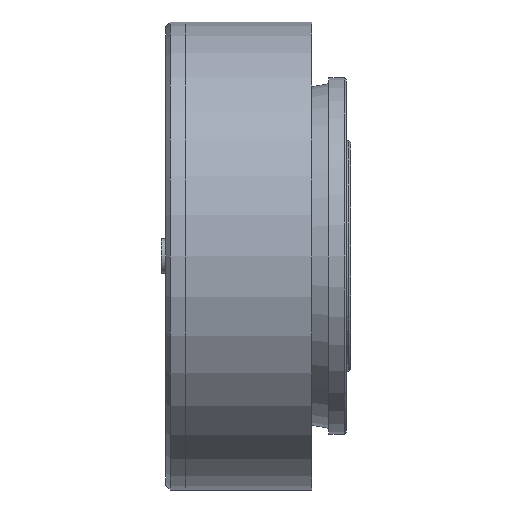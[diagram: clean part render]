
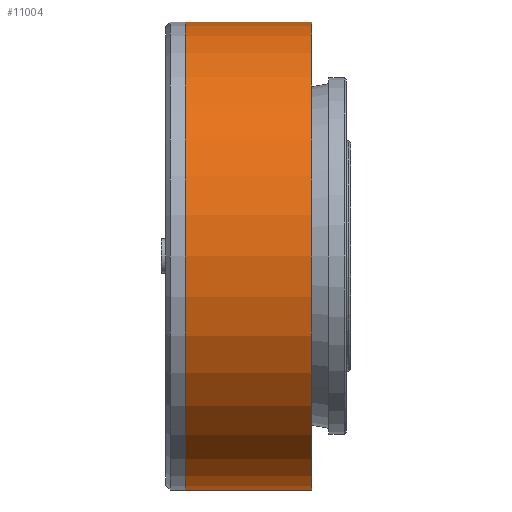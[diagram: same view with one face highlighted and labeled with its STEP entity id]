
A CAD part, left-side view. The second image highlights one B-rep face of the part: STEP entity #11004.
In plain terms, the highlighted cylindrical face has radius 53.75 mm (diameter 107.5 mm), a partial arc.
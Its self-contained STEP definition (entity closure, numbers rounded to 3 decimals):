
#193 = CARTESIAN_POINT ( 'NONE',  ( 0., 29., 53.75 ) ) ;
#1490 = CIRCLE ( 'NONE', #12323, 53.75 ) ;
#1848 = DIRECTION ( 'NONE',  ( 0., -1., 0. ) ) ;
#1874 = DIRECTION ( 'NONE',  ( 0., -1., 0. ) ) ;
#2112 = VERTEX_POINT ( 'NONE', #19322 ) ;
#2259 = ORIENTED_EDGE ( 'NONE', *, *, #17131, .F. ) ;
#2554 = VECTOR ( 'NONE', #1848, 1000. ) ;
#2703 = CARTESIAN_POINT ( 'NONE',  ( 0., 29., 0. ) ) ;
#3337 = CARTESIAN_POINT ( 'NONE',  ( 0., 29., 53.75 ) ) ;
#4153 = ORIENTED_EDGE ( 'NONE', *, *, #4627, .T. ) ;
#4627 = EDGE_CURVE ( 'NONE', #15366, #21380, #1490, .T. ) ;
#5016 = CARTESIAN_POINT ( 'NONE',  ( 0., 29., -53.75 ) ) ;
#6673 = AXIS2_PLACEMENT_3D ( 'NONE', #14054, #1874, #8995 ) ;
#6928 = CARTESIAN_POINT ( 'NONE',  ( 0., 0., 0. ) ) ;
#7242 = CYLINDRICAL_SURFACE ( 'NONE', #6673, 53.75 ) ;
#8114 = CARTESIAN_POINT ( 'NONE',  ( 0., 0., 53.75 ) ) ;
#8778 = ORIENTED_EDGE ( 'NONE', *, *, #21026, .T. ) ;
#8798 = DIRECTION ( 'NONE',  ( 0., 0., 1. ) ) ;
#8995 = DIRECTION ( 'NONE',  ( 0., 0., -1. ) ) ;
#9824 = DIRECTION ( 'NONE',  ( 0., 1., 0. ) ) ;
#11004 = ADVANCED_FACE ( 'NONE', ( #21281 ), #7242, .T. ) ;
#12323 = AXIS2_PLACEMENT_3D ( 'NONE', #6928, #13864, #8798 ) ;
#13864 = DIRECTION ( 'NONE',  ( 0., 1., 0. ) ) ;
#14054 = CARTESIAN_POINT ( 'NONE',  ( 0., 29., 0. ) ) ;
#15362 = CARTESIAN_POINT ( 'NONE',  ( 0., 0., -53.75 ) ) ;
#15366 = VERTEX_POINT ( 'NONE', #8114 ) ;
#15794 = CIRCLE ( 'NONE', #18768, 53.75 ) ;
#16124 = LINE ( 'NONE', #5016, #2554 ) ;
#16975 = DIRECTION ( 'NONE',  ( 0., 0., 1. ) ) ;
#17131 = EDGE_CURVE ( 'NONE', #19565, #2112, #15794, .T. ) ;
#17947 = LINE ( 'NONE', #193, #19676 ) ;
#18058 = DIRECTION ( 'NONE',  ( 0., -1., 0. ) ) ;
#18472 = ORIENTED_EDGE ( 'NONE', *, *, #21966, .F. ) ;
#18768 = AXIS2_PLACEMENT_3D ( 'NONE', #2703, #9824, #16975 ) ;
#19322 = CARTESIAN_POINT ( 'NONE',  ( 0., 29., -53.75 ) ) ;
#19565 = VERTEX_POINT ( 'NONE', #3337 ) ;
#19676 = VECTOR ( 'NONE', #18058, 1000. ) ;
#20684 = EDGE_LOOP ( 'NONE', ( #2259, #8778, #4153, #18472 ) ) ;
#21026 = EDGE_CURVE ( 'NONE', #19565, #15366, #17947, .T. ) ;
#21281 = FACE_OUTER_BOUND ( 'NONE', #20684, .T. ) ;
#21380 = VERTEX_POINT ( 'NONE', #15362 ) ;
#21966 = EDGE_CURVE ( 'NONE', #2112, #21380, #16124, .T. ) ;
